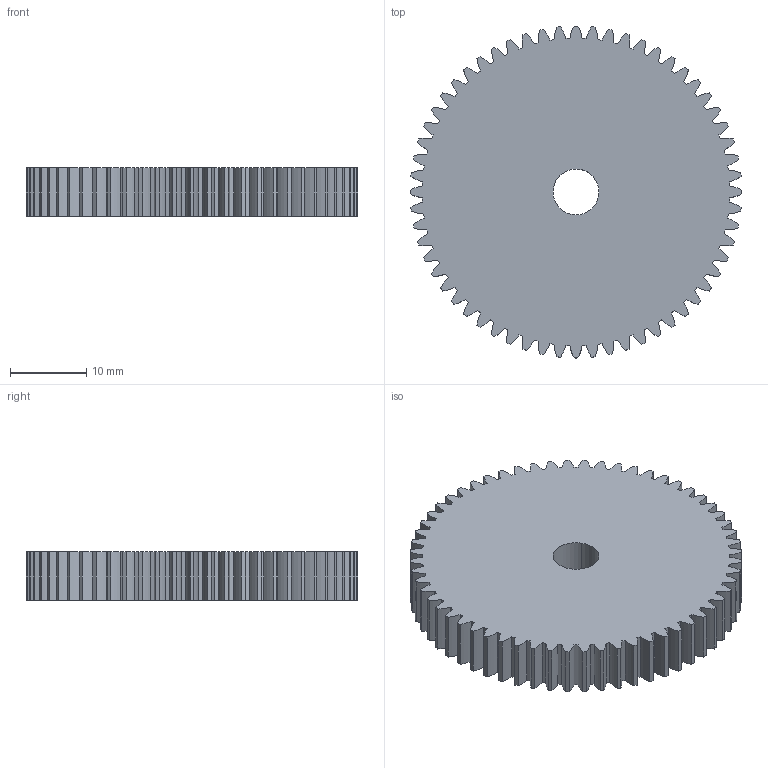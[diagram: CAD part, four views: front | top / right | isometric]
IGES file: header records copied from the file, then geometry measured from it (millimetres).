
Global section: file name: C:\Documents and Settings\Administrator\Desktop\Transfer Temp\gear07m60t.igs; native system: AutoDesk Inventor R2.0 ; preprocessor: AutoDesk Inventor Iges Exporter R2.0; author: No Author specified; organization: No Organization specified; date: 20011226.195724; units: millimetre
Bounding box: 43.4 x 43.4 x 6.4 mm (x, y, z)
Surface area: 4509.1 mm2 (no closed solid volume)
Topology: 0 solids, 0 shells, 244 faces, 1452 edges, 1452 vertices
Faces by surface type: revolution 240, bspline 4
